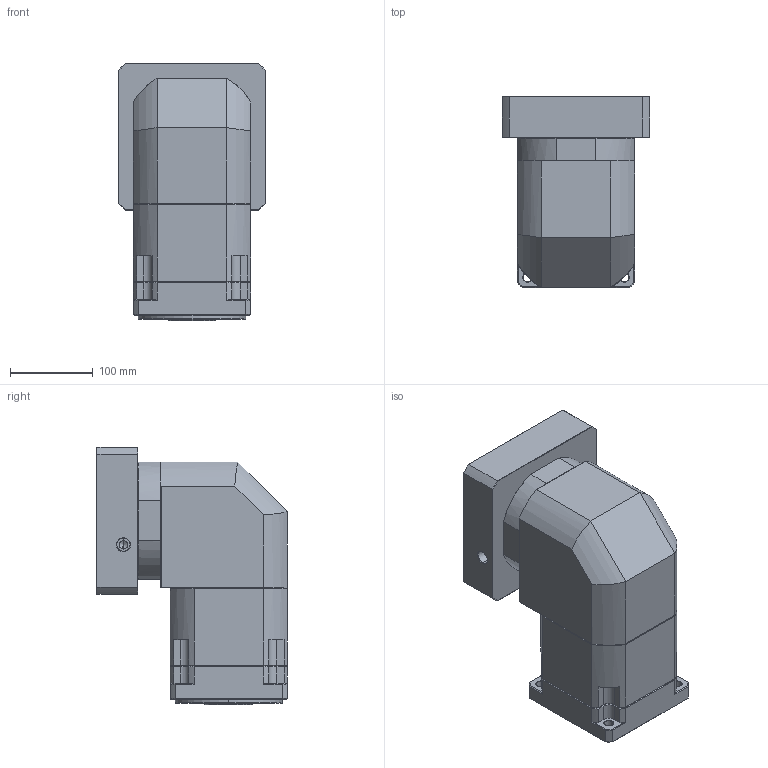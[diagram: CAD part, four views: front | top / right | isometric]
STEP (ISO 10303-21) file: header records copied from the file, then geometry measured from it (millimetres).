
FILE_DESCRIPTION (( 'STEP AP214' ), '1' );
FILE_NAME ('ZBR142A-K35-L2-P2-35-114.3-200-M12.step', '2023-09-02T07:16:53', ( '' ), ( '' ), 'SwSTEP 2.0', 'SolidWorks 2016', '' );
FILE_SCHEMA (( 'AUTOMOTIVE_DESIGN' ));
Length unit declared in the file: millimetre
Products named in the file (1): ZBR142A-K35-L2-P2-35-114.3-200-M12
Bounding box: 178 x 231 x 311.7 mm (x, y, z)
Volume: 6576407.2 mm3; surface area: 440302.6 mm2
Topology: 6 solids, 6 shells, 2239 faces, 5911 edges, 3778 vertices
Faces by surface type: plane 1113, bspline 403, cylinder 377, cone 326, torus 20
Entity records: 122162 total; most frequent: CARTESIAN_POINT 45249, ORIENTED_EDGE 11766, DIRECTION 9327, EDGE_CURVE 5883, VECTOR 3839, LINE 3839, VERTEX_POINT 3778, AXIS2_PLACEMENT_3D 2744
